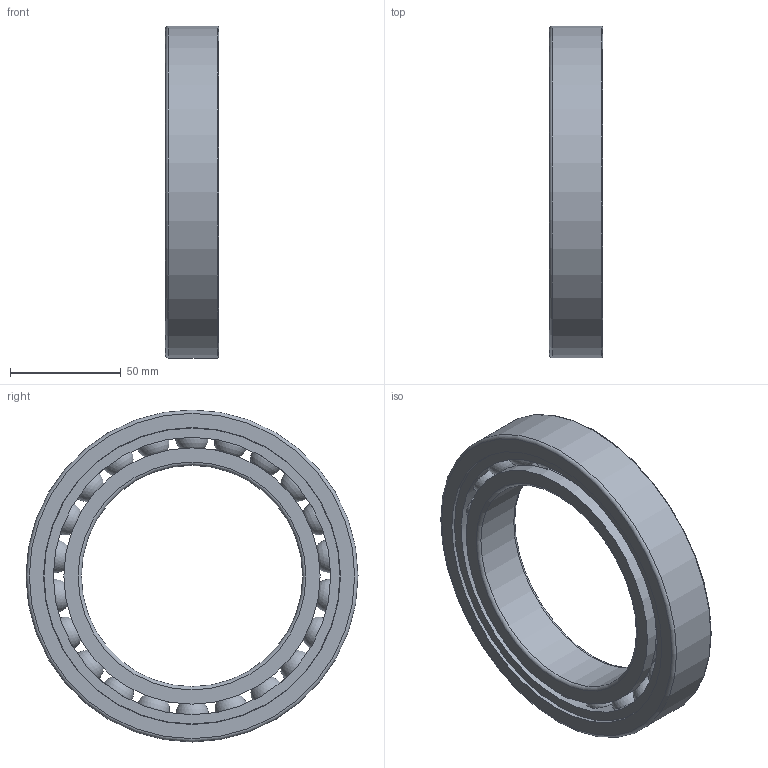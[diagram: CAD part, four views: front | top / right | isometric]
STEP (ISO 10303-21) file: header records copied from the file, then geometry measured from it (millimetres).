
FILE_DESCRIPTION(/* description */ (''),/* implementation_level */ '2;1');
FILE_NAME(/* name */ 'SM_6020_TA.step',/* time_stamp */ '2013-03-11T11:35:01+01:00',/* author */ ('Marian'),/* organization */ ('GMN'),/* preprocessor_version */ 'ST-DEVELOPER v11',/* originating_system */ 'SIEMENS UGS NX 6.0',/* authorisation */ '');
FILE_SCHEMA (('CONFIG_CONTROL_DESIGN'));
Length unit declared in the file: millimetre
Products named in the file (1): SM_6020_TA
Bounding box: 24 x 150 x 150 mm (x, y, z)
Volume: 176646.1 mm3; surface area: 81839.9 mm2
Topology: 25 solids, 25 shells, 64 faces, 170 edges, 110 vertices
Faces by surface type: cylinder 29, sphere 22, torus 6, plane 6, cone 1
Full cylindrical faces by diameter (mm): 15.281 x22, 100 x1, 115.8 x2, 125.301 x1, 133.8 x1, 134.2 x1, 150 x1
Entity records: 2126 total; most frequent: CARTESIAN_POINT 963, DIRECTION 170, FACE_BOUND 150, EDGE_LOOP 128, ORIENTED_EDGE 128, VERTEX_POINT 86, AXIS2_PLACEMENT_3D 85, EDGE_CURVE 64
